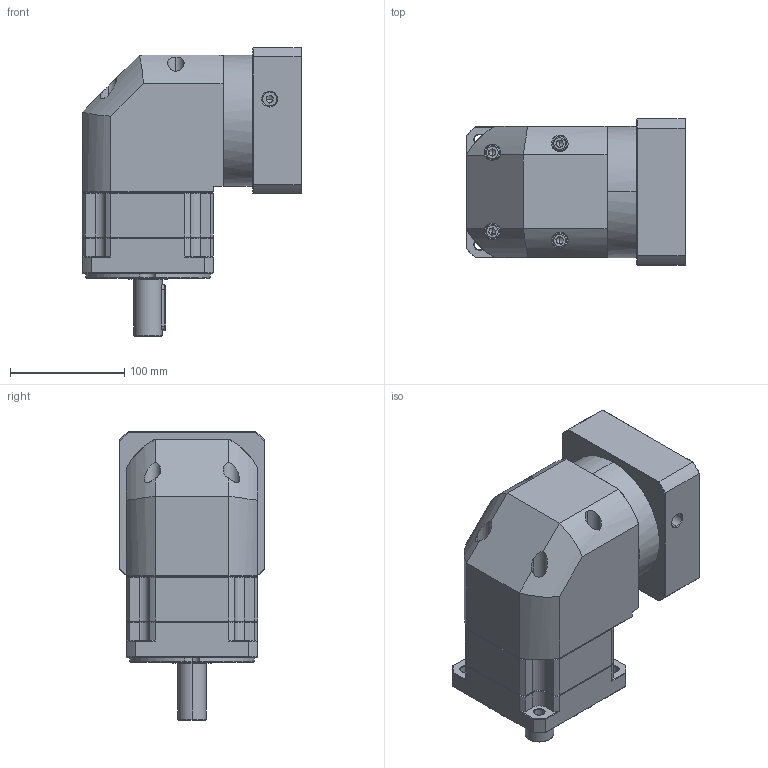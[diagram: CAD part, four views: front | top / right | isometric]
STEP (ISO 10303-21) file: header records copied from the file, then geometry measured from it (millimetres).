
FILE_DESCRIPTION (( 'STEP AP214' ), '1' );
FILE_NAME ('ZBR115A-D25-L1-P2-22-110-145-M8.step', '2023-08-26T12:30:54', ( '' ), ( '' ), 'SwSTEP 2.0', 'SolidWorks 2016', '' );
FILE_SCHEMA (( 'AUTOMOTIVE_DESIGN' ));
Length unit declared in the file: millimetre
Products named in the file (1): ZBR115A-D25-L1-P2-22-110-145-M8
Bounding box: 192.4 x 128 x 253 mm (x, y, z)
Volume: 3040603.8 mm3; surface area: 253779.9 mm2
Topology: 6 solids, 6 shells, 2380 faces, 6233 edges, 3957 vertices
Faces by surface type: plane 1139, cylinder 439, bspline 425, cone 369, torus 8
Entity records: 128037 total; most frequent: CARTESIAN_POINT 46915, ORIENTED_EDGE 12406, DIRECTION 9780, EDGE_CURVE 6203, VECTOR 3990, LINE 3990, VERTEX_POINT 3957, AXIS2_PLACEMENT_3D 2895
